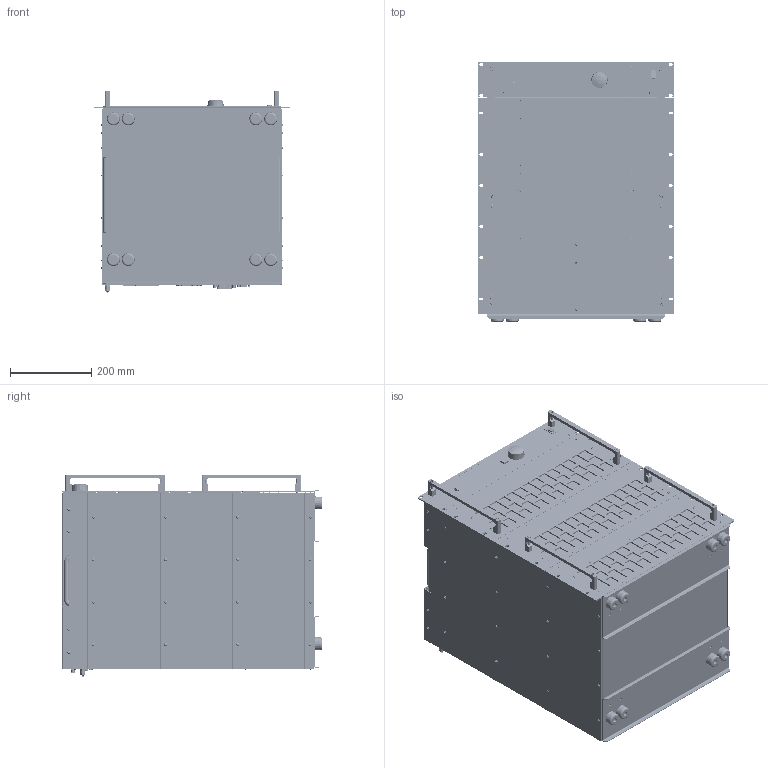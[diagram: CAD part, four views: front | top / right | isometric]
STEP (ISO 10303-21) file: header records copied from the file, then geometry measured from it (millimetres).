
FILE_DESCRIPTION(('STEP AP214'),'1');
FILE_NAME('ACL_M4_19Z_14HE_PH7_10.16-ST76_BRA_3D_02.step','2020-02-20T06:26:26',(' '),(' '),'Spatial InterOp 3D',' ',' ');
FILE_SCHEMA(('AUTOMOTIVE_DESIGN { 1 0 10303 214 1 1 1 1 }'));
Length unit declared in the file: millimetre
Products named in the file (20): 3158_6HE_ug-05_224; *U393; *U394; *U395; *U396; *U397; *U398; *U399; 2078_ACL_IO Panel_02; 1962_ACL_Rückwand Steuerteil_mit_Druck_3D_03; *U430; *U389; *U390; *U391; *U385; *U386; *U387; *U388; AutoCreatedBlock_2647
Assembly tree (122 placements, depth 2):
  (unnamed)
    3158_6HE_ug-05_224  x4
    *U393  x2
    *U394
    *U395  x3
    *U396  x2
    *U397  x2
    *U398  x17
    *U399  x16
    2078_ACL_IO Panel_02  x3
    1962_ACL_Rückwand Steuerteil_mit_Druck_3D_03
    *U430  x4
    *U389  x16
    *U390  x12
    *U391  x16
    *U385  x6
    *U386  x6
    *U387  x8
    *U388  x2
    AutoCreatedBlock_2647
Bounding box: 482.6 x 639.24 x 497.65 mm (x, y, z)
Volume: 111879185.9 mm3; surface area: 6440033.4 mm2
Topology: 308 solids, 484 shells, 26606 faces, 66275 edges, 41561 vertices
Faces by surface type: plane 12262, cone 9114, cylinder 4487, sphere 326, torus 227, bspline 190
Entity records: 839360 total; most frequent: CARTESIAN_POINT 145717, DIRECTION 110542, ORIENTED_EDGE 105358, EDGE_CURVE 53078, AXIS2_PLACEMENT_3D 36888, LINE 36766, VECTOR 36766, VERTEX_POINT 33487
